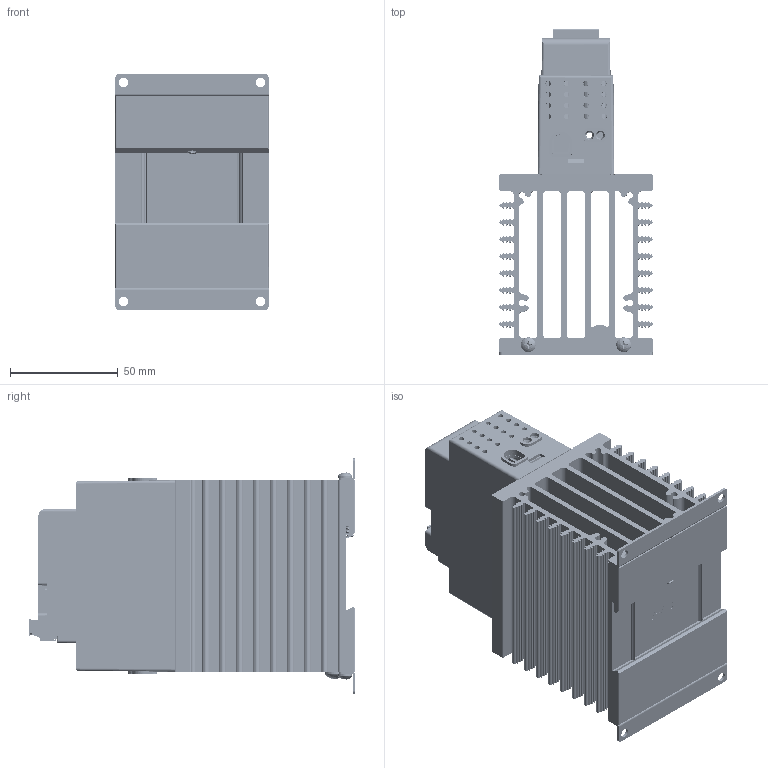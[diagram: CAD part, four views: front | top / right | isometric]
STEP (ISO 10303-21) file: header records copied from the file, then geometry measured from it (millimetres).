
FILE_DESCRIPTION(/* description */ (''),/* implementation_level */ '2;1');
FILE_NAME(/* name */ '1-phase EtherCAT 50A w-tabs.stp',/* time_stamp */ '2024-11-12T08:51:24-06:00',/* author */ ('ErikG'),/* organization */ (''),/* preprocessor_version */ 'ST-DEVELOPER v20',/* originating_system */ 'Autodesk Inventor 2025',/* authorisation */ '');
FILE_SCHEMA (('AUTOMOTIVE_DESIGN { 1 0 10303 214 3 1 1 }'));
Products named in the file (32): 3001631e; 3001761; 1001600G; P11; P6; fci 6 pin header OQ06120000J0G; fci 6 pin headerOQ06120000J0G half 1; fci 5 pin header OQ05120000J0G half 2; fci 6 pin connector TS06110B00J0G; fci 5 pin connector TS05110B00J0G LEFT HALF; fci 5 pin connector TS05110B00J0G RIGHT HALF; P3; usb-c31-s-vt-cs4-bk-pp-t-r-model ADAMTECH; P5; 74990101210 (rev1); base; shielding; top board erase; SW3; SW2; SH-7070TA; _SH-7070A_body; _SH-700-Without knob (Minus slot); 3001763; 3001755; 3001756; 3001747; 0060702-1032-0375; 3001753; 0060002-0632-0375; 0060783-0610-010.ipt; spring
Assembly tree (39 placements, depth 6):
  3001631e
    3001761  x3
    1001600G
      P11
        74990101210 (rev1)
          base
          shielding
      P6
        fci 6 pin header OQ06120000J0G
          fci 6 pin headerOQ06120000J0G half 1
          fci 5 pin header OQ05120000J0G half 2
          fci 6 pin connector TS06110B00J0G
            fci 5 pin connector TS05110B00J0G LEFT HALF
            fci 5 pin connector TS05110B00J0G RIGHT HALF
      P3
        usb-c31-s-vt-cs4-bk-pp-t-r-model ADAMTECH
      P5
        74990101210 (rev1)
          base
          shielding
      top board erase
        SW3
          SH-7070TA
            _SH-7070A_body
            _SH-700-Without knob (Minus slot)
        SW2
          SH-7070TA
            _SH-7070A_body
            _SH-700-Without knob (Minus slot)
    3001763
    3001755
    3001756
    3001747
    0060702-1032-0375
    3001753  x2
    0060002-0632-0375  x4
    0060783-0610-010.ipt
    spring
Bounding box: 71.12 x 151.58 x 109.22 mm (x, y, z)
Volume: 267517.6 mm3; surface area: 223931.1 mm2
Topology: 30 solids, 120 shells, 9479 faces, 26429 edges, 17341 vertices
Faces by surface type: plane 7336, cylinder 1635, cone 241, bspline 155, torus 89, sphere 23
Full cylindrical faces by diameter (mm): 0.254 x1, 0.45 x2, 0.55 x2, 0.65 x2, 1 x2, 1.2 x2, 2.3 x12, 2.642 x3, 2.95 x6, 3.277 x2, 3.28 x2, 3.3 x2, 3.4 x2, 3.42 x2, 3.505 x4, 4 x2, 4.318 x8, 4.826 x1, 4.917 x1, 6 x1, 6.172 x1, 6.858 x4, 9.474 x1
Entity records: 246288 total; most frequent: CARTESIAN_POINT 58247, ORIENTED_EDGE 39784, DIRECTION 36734, EDGE_CURVE 19892, LINE 15766, VECTOR 15766, VERTEX_POINT 13061, AXIS2_PLACEMENT_3D 10484
